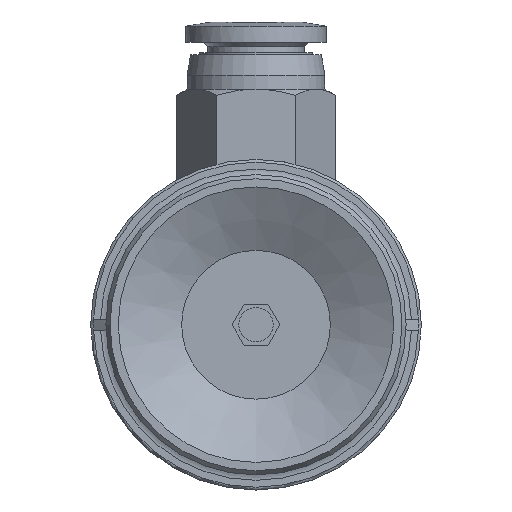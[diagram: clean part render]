
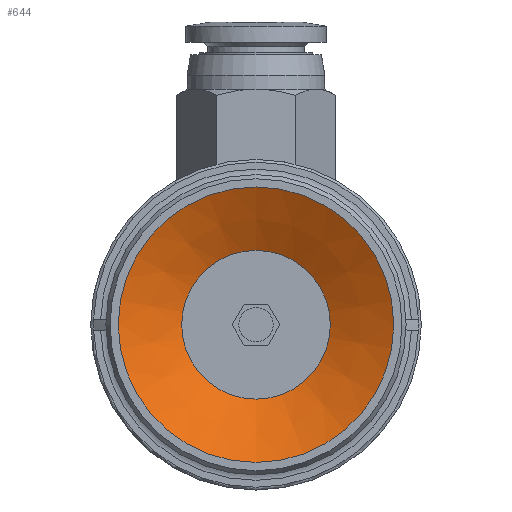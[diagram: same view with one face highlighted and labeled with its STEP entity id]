
A CAD part, front view. The second image highlights one B-rep face of the part: STEP entity #644.
In plain terms, the highlighted conical face has half-angle 61.631 degrees and reference radius 5.4 mm.
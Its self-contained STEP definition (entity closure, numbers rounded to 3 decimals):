
#644=ADVANCED_FACE('',(#1016,#1017),#1018,.F.);
#1016=FACE_BOUND('',#1463,.T.);
#1017=FACE_OUTER_BOUND('',#1464,.T.);
#1018=CONICAL_SURFACE('',#1465,5.4,1.076);
#1463=EDGE_LOOP('',(#2686));
#1464=EDGE_LOOP('',(#2687));
#1465=AXIS2_PLACEMENT_3D('',#2688,#2689,#2690);
#2686=ORIENTED_EDGE('',*,*,#3223,.F.);
#2687=ORIENTED_EDGE('',*,*,#3244,.T.);
#2688=CARTESIAN_POINT('',(0.0,2.484,0.0));
#2689=DIRECTION('',(-0.0,-1.0,0.));
#2690=DIRECTION('',(0.0,0.,-1.0));
#3223=EDGE_CURVE('',#3711,#3711,#3712,.T.);
#3244=EDGE_CURVE('',#3745,#3745,#3746,.T.);
#3711=VERTEX_POINT('',#4721);
#3712=CIRCLE('',#4722,5.4);
#3745=VERTEX_POINT('',#4759);
#3746=CIRCLE('',#4760,10.0);
#4721=CARTESIAN_POINT('',(0.0,2.484,-5.4));
#4722=AXIS2_PLACEMENT_3D('',#5574,#5575,#5576);
#4759=CARTESIAN_POINT('',(0.0,0.,-10.0));
#4760=AXIS2_PLACEMENT_3D('',#5629,#5630,#5631);
#5574=CARTESIAN_POINT('',(0.0,2.484,0.0));
#5575=DIRECTION('',(0.0,-1.0,0.));
#5576=DIRECTION('',(0.0,0.,-1.0));
#5629=CARTESIAN_POINT('',(0.0,0.0,0.0));
#5630=DIRECTION('',(0.0,-1.0,0.));
#5631=DIRECTION('',(0.0,0.,-1.0));
